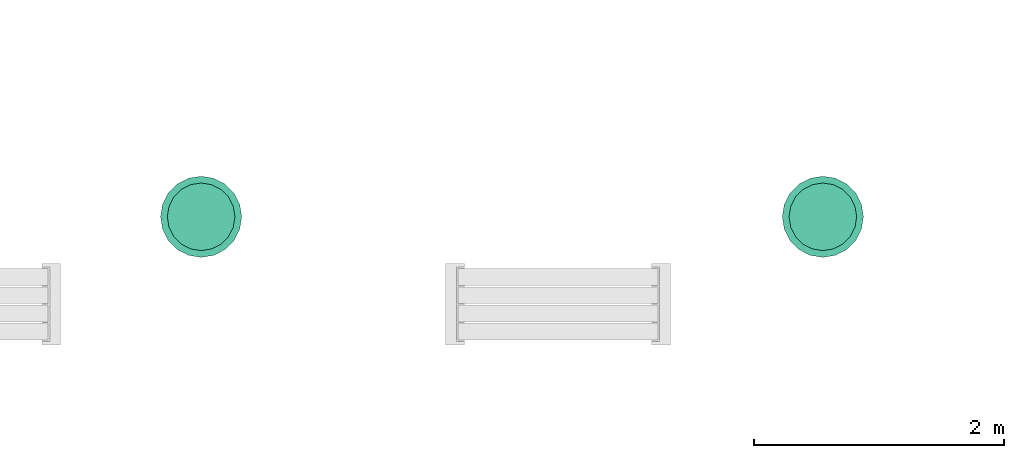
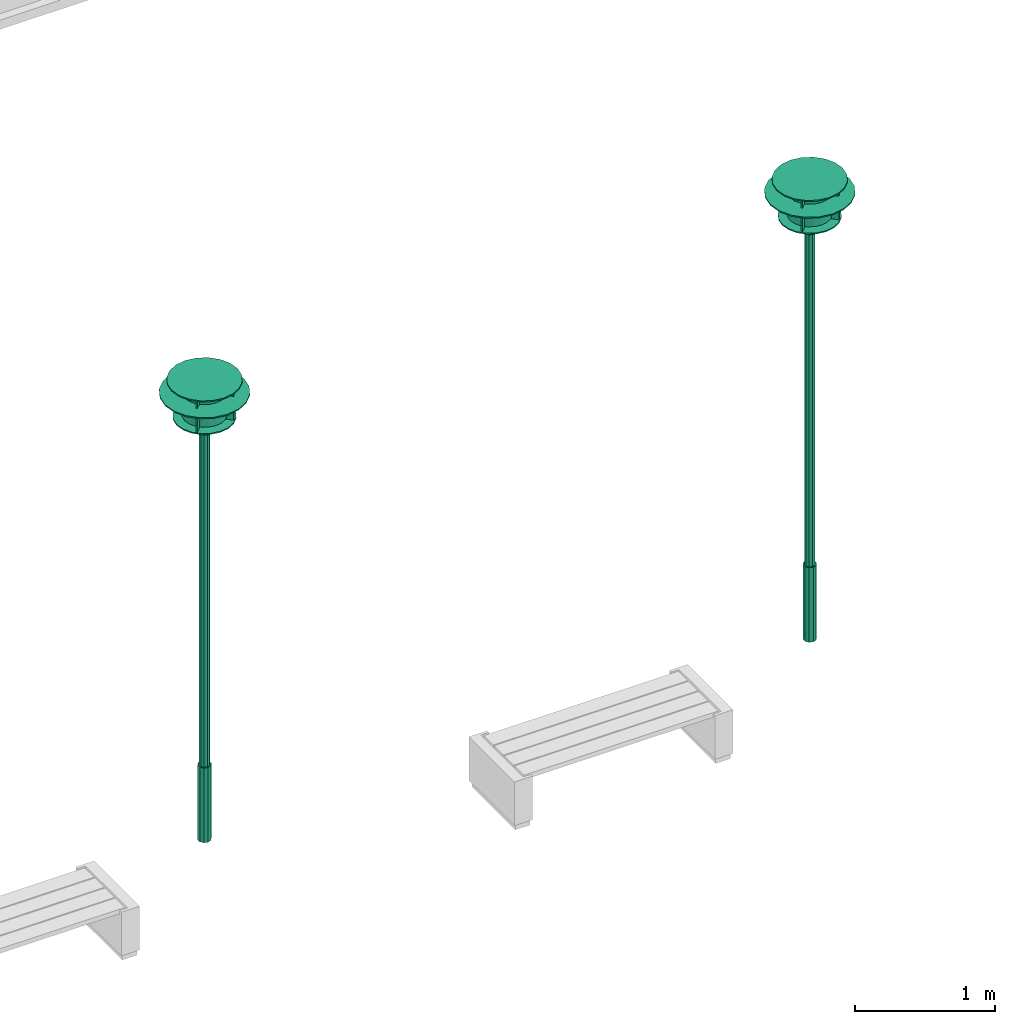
# One storey, part 1 of 8: 2 flow terminals.
"""IFC2X3 building model written with IfcOpenShell, lengths in millimetres."""

from ifc_helpers import new_model, entity, si_unit, converted_unit, derived_unit, direction, frame, frame_2d, origin, origin_2d_with_axis, place, context, subcontext, project, spatial, polyline, rectangle, outline, extrude, source, transform, mapped, material, material_list, type_object, type_shapes, element, save


model = new_model("IFC2X3")

# Units and contexts
model_context = context("Model", 3, precision=0.01, world=origin(), true_north=direction((6.12303176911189e-17, 1.0)))
body_context = subcontext(model_context, "Body", "Model", "MODEL_VIEW")
ifc_project = project(units=[si_unit("LENGTHUNIT", "METRE", prefix="MILLI"), si_unit("AREAUNIT", "SQUARE_METRE"), si_unit("VOLUMEUNIT", "CUBIC_METRE"), converted_unit("PLANEANGLEUNIT", "DEGREE", entity("IfcRatioMeasure", 0.0174532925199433), si_unit("PLANEANGLEUNIT", "RADIAN"), dimensions=[0, 0, 0, 0, 0, 0, 0]), si_unit("MASSUNIT", "GRAM", prefix="KILO"), derived_unit("MASSDENSITYUNIT", [(si_unit("MASSUNIT", "GRAM", prefix="KILO"), 1), (si_unit("LENGTHUNIT", "METRE"), -3)]), si_unit("TIMEUNIT", "SECOND"), si_unit("FREQUENCYUNIT", "HERTZ"), si_unit("THERMODYNAMICTEMPERATUREUNIT", "DEGREE_CELSIUS"), derived_unit("THERMALTRANSMITTANCEUNIT", [(si_unit("MASSUNIT", "GRAM", prefix="KILO"), 1), (si_unit("THERMODYNAMICTEMPERATUREUNIT", "KELVIN"), -1), (si_unit("TIMEUNIT", "SECOND"), -3)]), derived_unit("VOLUMETRICFLOWRATEUNIT", [(si_unit("LENGTHUNIT", "METRE"), 3), (si_unit("TIMEUNIT", "SECOND"), -1)]), si_unit("ELECTRICCURRENTUNIT", "AMPERE"), si_unit("ELECTRICVOLTAGEUNIT", "VOLT"), si_unit("POWERUNIT", "WATT"), si_unit("FORCEUNIT", "NEWTON", prefix="KILO"), si_unit("ILLUMINANCEUNIT", "LUX"), si_unit("LUMINOUSFLUXUNIT", "LUMEN"), si_unit("LUMINOUSINTENSITYUNIT", "CANDELA"), derived_unit("USERDEFINED", [(si_unit("MASSUNIT", "GRAM", prefix="KILO"), -1), (si_unit("LENGTHUNIT", "METRE"), -2), (si_unit("TIMEUNIT", "SECOND"), 3), (si_unit("LUMINOUSFLUXUNIT", "LUMEN"), 1)]), derived_unit("LINEARVELOCITYUNIT", [(si_unit("LENGTHUNIT", "METRE"), 1), (si_unit("TIMEUNIT", "SECOND"), -1)]), si_unit("PRESSUREUNIT", "PASCAL"), derived_unit("USERDEFINED", [(si_unit("LENGTHUNIT", "METRE"), -2), (si_unit("MASSUNIT", "GRAM", prefix="KILO"), 1), (si_unit("TIMEUNIT", "SECOND"), -2)])], contexts=[model_context])

# Site, building, storey
site_placement = place(None, origin())
site = spatial("IfcSite", under=ifc_project, at=site_placement, Name="Default", CompositionType="ELEMENT")
building_placement = place(site_placement, origin())
building = spatial("IfcBuilding", under=site, at=building_placement, CompositionType="ELEMENT")
storey_placement = place(building_placement, origin())
storey = spatial("IfcBuildingStorey", under=building, at=storey_placement, Name="Ground Floor", CompositionType="ELEMENT", Elevation=0.0)

# Flow terminals
ifc_material_1 = material(Name="Metal - Stainless Steel")
ifc_material_2 = material(Name="Glass - Satin")
ifc_material_list_1 = material_list([ifc_material_1, ifc_material_2])
ifc_material_list_2 = material_list([ifc_material_1, ifc_material_2])
light_fixture_type_1 = type_object("IfcLightFixtureType", Name="LI - 001", PredefinedType="NOTDEFINED", material=ifc_material_list_2)
shared_shape_1 = source(origin(), body_context, "Body", "SweptSolid", [
    extrude(outline(polyline([(-50.8412011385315, -320.998710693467), (50.8412011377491, -320.998710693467), (147.54691241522, -289.577120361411), (229.809703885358, -229.809703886), (289.577120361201, -147.546912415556), (320.998710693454, -50.8412011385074), (320.998710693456, 50.8412011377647), (289.577120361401, 147.546912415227), (229.809703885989, 229.809703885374), (147.546912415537, 289.577120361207), (50.8412011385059, 320.998710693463), (-50.8412011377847, 320.99871069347), (-147.546912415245, 289.577120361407), (-229.809703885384, 229.809703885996), (-289.577120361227, 147.546912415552), (-320.998710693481, 50.8412011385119), (-320.998710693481, -50.8412011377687), (-289.577120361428, -147.546912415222), (-229.809703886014, -229.809703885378), (-147.546912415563, -289.577120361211), (-50.8412011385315, -320.998710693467)]), holes=[polyline([(73.7734562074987, -144.788560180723), (25.420600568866, -160.499355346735), (-25.4206005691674, -160.499355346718), (-73.7734562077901, -144.788560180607), (-114.904851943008, -114.904851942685), (-144.788560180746, -73.7734562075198), (-160.499355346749, -25.4206005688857), (-160.499355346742, 25.4206005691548), (-144.788560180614, 73.7734562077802), (-114.904851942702, 114.904851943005), (-73.7734562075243, 144.788560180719), (-25.4206005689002, 160.499355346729), (25.4206005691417, 160.499355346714), (73.773456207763, 144.788560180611), (114.904851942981, 114.904851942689), (144.788560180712, 73.7734562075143), (160.499355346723, 25.4206005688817), (160.499355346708, -25.4206005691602), (144.788560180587, -73.7734562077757), (114.904851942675, -114.904851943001), (73.7734562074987, -144.788560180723)])]), frame((70917.2396784, 57660.3691672, 3881.66666667), z_axis=(0.0, 0.0, 1.0), x_axis=(0.987688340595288, -0.156434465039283, 0.0)), (0.0, 0.0, 1.0), 9.99999999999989),
    extrude(outline(polyline([(-42.3676676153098, -267.498925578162), (42.3676676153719, -267.498925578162), (122.955760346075, -241.314266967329), (191.508086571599, -191.50808657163), (241.314266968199, -122.955760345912), (267.498925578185, -42.3676676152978), (267.498925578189, 42.3676676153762), (241.314266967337, 122.955760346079), (191.508086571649, 191.508086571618), (122.955760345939, 241.314266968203), (42.3676676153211, 267.498925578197), (-42.3676676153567, 267.498925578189), (-122.955760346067, 241.314266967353), (-191.508086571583, 191.508086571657), (-241.314266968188, 122.955760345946), (-267.498925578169, 42.3676676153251), (-267.498925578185, -42.3676676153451), (-241.31426696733, -122.955760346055), (-191.508086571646, -191.508086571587), (-122.955760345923, -241.314266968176), (-42.3676676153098, -267.498925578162)])), frame((70917.2396784, 57660.3691672, 3990.0), z_axis=(0.0, 0.0, 1.0), x_axis=(0.891006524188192, -0.453990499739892, 0.0)), (0.0, 0.0, 1.0), 9.99999999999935),
    extrude(outline(polyline([(-14.0791018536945, -88.8919506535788), (14.0791018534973, -88.8919506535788), (40.8591449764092, -80.1905871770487), (63.6396103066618, -63.6396103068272), (80.190587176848, -40.8591449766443), (88.8919506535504, -14.0791018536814), (88.8919506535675, 14.0791018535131), (80.1905871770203, 40.8591449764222), (63.6396103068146, 63.6396103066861), (40.8591449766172, 80.1905871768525), (14.0791018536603, 88.8919506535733), (-14.0791018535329, 88.8919506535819), (-40.8591449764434, 80.1905871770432), (-63.639610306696, 63.6396103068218), (-80.1905871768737, 40.8591449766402), (-88.8919506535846, 14.079101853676), (-88.8919506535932, -14.0791018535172), (-80.1905871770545, -40.8591449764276), (-63.6396103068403, -63.6396103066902), (-40.8591449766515, -80.1905871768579), (-14.0791018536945, -88.8919506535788)]), holes=[polyline([(18.1596199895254, -35.6402609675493), (6.25737860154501, -39.5075336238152), (-6.25737860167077, -39.507533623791), (-18.1596199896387, -35.6402609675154), (-28.2842712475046, -28.2842712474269), (-35.6402609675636, -18.1596199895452), (-39.5075336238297, -6.25737860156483), (-39.5075336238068, 6.2573786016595), (-35.6402609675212, 18.1596199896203), (-28.284271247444, 28.2842712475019), (-18.1596199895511, 35.6402609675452), (-6.25737860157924, 39.5075336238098), (6.2573786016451, 39.507533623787), (18.1596199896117, 35.6402609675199), (28.2842712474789, 28.2842712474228), (35.6402609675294, 18.1596199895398), (39.5075336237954, 6.25737860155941), (39.5075336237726, -6.25737860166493), (35.6402609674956, -18.1596199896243), (28.284271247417, -28.2842712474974), (18.1596199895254, -35.6402609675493)])]), frame((70917.2396784, 57660.3691672, 3575.0), z_axis=(0.0, 0.0, 1.0), x_axis=(0.987688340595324, -0.156434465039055, 0.0)), (0.0, 0.0, 1.0), 9.99999999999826),
    extrude(outline(polyline([(-14.0791018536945, -88.8919506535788), (14.0791018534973, -88.8919506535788), (40.8591449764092, -80.1905871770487), (63.6396103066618, -63.6396103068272), (80.190587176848, -40.8591449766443), (88.8919506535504, -14.0791018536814), (88.8919506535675, 14.0791018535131), (80.1905871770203, 40.8591449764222), (63.6396103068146, 63.6396103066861), (40.8591449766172, 80.1905871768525), (14.0791018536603, 88.8919506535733), (-14.0791018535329, 88.8919506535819), (-40.8591449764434, 80.1905871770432), (-63.639610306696, 63.6396103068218), (-80.1905871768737, 40.8591449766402), (-88.8919506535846, 14.079101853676), (-88.8919506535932, -14.0791018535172), (-80.1905871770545, -40.8591449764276), (-63.6396103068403, -63.6396103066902), (-40.8591449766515, -80.1905871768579), (-14.0791018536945, -88.8919506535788)]), holes=[polyline([(18.1596199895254, -35.6402609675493), (6.25737860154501, -39.5075336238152), (-6.25737860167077, -39.507533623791), (-18.1596199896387, -35.6402609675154), (-28.2842712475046, -28.2842712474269), (-35.6402609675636, -18.1596199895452), (-39.5075336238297, -6.25737860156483), (-39.5075336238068, 6.2573786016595), (-35.6402609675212, 18.1596199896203), (-28.284271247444, 28.2842712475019), (-18.1596199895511, 35.6402609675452), (-6.25737860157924, 39.5075336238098), (6.2573786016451, 39.507533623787), (18.1596199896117, 35.6402609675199), (28.2842712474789, 28.2842712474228), (35.6402609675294, 18.1596199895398), (39.5075336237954, 6.25737860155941), (39.5075336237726, -6.25737860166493), (35.6402609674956, -18.1596199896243), (28.284271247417, -28.2842712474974), (18.1596199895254, -35.6402609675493)])]), frame((70917.2396784, 57660.3691672, 3625.0), z_axis=(0.0, 0.0, 1.0), x_axis=(0.987688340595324, -0.156434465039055, 0.0)), (0.0, 0.0, 1.0), 9.99999999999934),
    extrude(outline(polyline([(-35.5888407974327, -224.699097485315), (35.5888407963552, -224.699097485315), (103.282838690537, -202.703984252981), (160.866792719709, -160.866792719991), (202.703984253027, -103.282838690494), (224.699097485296, -35.5888407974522), (224.699097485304, 35.5888407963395), (202.703984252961, 103.282838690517), (160.866792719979, 160.866792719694), (103.282838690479, 202.703984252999), (35.5888407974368, 224.699097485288), (-35.5888407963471, 224.699097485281), (-103.282838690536, 202.703984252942), (-160.866792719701, 160.866792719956), (-202.703984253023, 103.282838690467), (-224.699097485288, 35.5888407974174), (-224.6990974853, -35.5888407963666), (-202.703984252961, -103.282838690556), (-160.866792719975, -160.866792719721), (-103.282838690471, -202.703984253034), (-35.5888407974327, -224.699097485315)])), frame((70917.2396784, 57660.3691672, 3675.0), z_axis=(0.0, 0.0, 1.0), x_axis=(0.891006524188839, -0.453990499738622, 0.0)), (0.0, 0.0, 1.0), 10.0000000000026),
    extrude(outline(polyline([(-25.4206005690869, -160.499355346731), (25.4206005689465, -160.499355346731), (73.7734562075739, -144.788560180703), (114.90485194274, -114.904851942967), (144.788560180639, -73.7734562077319), (160.499355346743, -25.4206005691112), (160.499355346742, 25.4206005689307), (144.788560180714, 73.7734562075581), (114.90485194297, 114.904851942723), (73.7734562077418, 144.788560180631), (25.4206005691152, 160.499355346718), (-25.4206005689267, 160.499355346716), (-73.7734562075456, 144.78856018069), (-114.904851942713, 114.904851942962), (-144.788560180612, 73.7734562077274), (-160.499355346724, 25.4206005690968), (-160.499355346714, -25.4206005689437), (-144.788560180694, -73.7734562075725), (-114.904851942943, -114.904851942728), (-73.7734562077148, -144.788560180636), (-25.4206005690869, -160.499355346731)])), frame((70917.2396784, 57660.3691672, 3695.0), z_axis=(0.0, 0.0, 1.0), x_axis=(0.987688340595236, -0.156434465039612, 0.0)), (0.0, 0.0, 1.0), 284.999999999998),
    extrude(rectangle(XDim=10.000000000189, YDim=54.1666666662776, at=origin_2d_with_axis()), frame((70783.1840178, 57526.3135066, 3891.66666667), z_axis=(0.0, 0.0, 1.0), x_axis=(-0.707106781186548, 0.707106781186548, 0.0)), (0.0, 0.0, 1.0), 98.3333333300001),
    extrude(rectangle(XDim=10.0000000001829, YDim=54.1666666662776, at=frame_2d((3.06243919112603e-12, -3.06421554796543e-12), x_axis=(1.0, 0.0))), frame((70783.1840178, 57794.4248278, 3891.66666667), z_axis=(0.0, 0.0, 1.0), x_axis=(0.707106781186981, 0.707106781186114, 0.0)), (0.0, 0.0, 1.0), 98.3333333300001),
    extrude(rectangle(XDim=10.0000000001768, YDim=54.1666666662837, at=frame_2d((6.12487838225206e-12, -6.12487838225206e-12), x_axis=(1.0, 0.0))), frame((71051.295339, 57794.4248278, 3891.66666667), z_axis=(0.0, 0.0, 1.0), x_axis=(0.707106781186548, -0.707106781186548, 0.0)), (0.0, 0.0, 1.0), 98.3333333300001),
    extrude(rectangle(XDim=10.0000000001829, YDim=54.1666666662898, at=frame_2d((6.12576656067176e-12, -6.12487838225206e-12), x_axis=(1.0, 0.0))), frame((71051.295339, 57526.3135066, 3891.66666667), z_axis=(0.0, 0.0, 1.0), x_axis=(-0.707106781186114, -0.707106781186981, 0.0)), (0.0, 0.0, 1.0), 98.3333333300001),
    extrude(rectangle(XDim=10.000000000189, YDim=54.1666666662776, at=origin_2d_with_axis()), frame((70783.1840178, 57526.3135066, 3685.0), z_axis=(0.0, 0.0, 1.0), x_axis=(-0.707106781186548, 0.707106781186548, 0.0)), (0.0, 0.0, 1.0), 196.66666667),
    extrude(rectangle(XDim=10.0000000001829, YDim=54.1666666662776, at=frame_2d((3.06243919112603e-12, -3.06421554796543e-12), x_axis=(1.0, 0.0))), frame((70783.1840178, 57794.4248278, 3685.0), z_axis=(0.0, 0.0, 1.0), x_axis=(0.707106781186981, 0.707106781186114, 0.0)), (0.0, 0.0, 1.0), 196.66666667),
    extrude(rectangle(XDim=10.0000000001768, YDim=54.1666666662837, at=frame_2d((6.12487838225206e-12, -6.12487838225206e-12), x_axis=(1.0, 0.0))), frame((71051.295339, 57794.4248278, 3685.0), z_axis=(0.0, 0.0, 1.0), x_axis=(0.707106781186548, -0.707106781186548, 0.0)), (0.0, 0.0, 1.0), 196.66666667),
    extrude(rectangle(XDim=10.0000000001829, YDim=54.1666666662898, at=frame_2d((6.12576656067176e-12, -6.12487838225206e-12), x_axis=(1.0, 0.0))), frame((71051.295339, 57526.3135066, 3685.0), z_axis=(0.0, 0.0, 1.0), x_axis=(-0.707106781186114, -0.707106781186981, 0.0)), (0.0, 0.0, 1.0), 196.66666667),
    extrude(outline(polyline([(-12.36067977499, -38.0422606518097), (12.3606797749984, -38.0422606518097), (32.3606797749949, -23.5114100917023), (40.0, 0.0), (32.3606797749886, 23.5114100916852), (12.3606797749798, 38.0422606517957), (-12.3606797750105, 38.0422606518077), (-32.3606797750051, 23.5114100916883), (-40.0, 0.0), (-32.3606797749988, -23.5114100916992), (-12.36067977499, -38.0422606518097)])), frame((70917.2396784, 57660.3691672, 3350.0), z_axis=(0.0, 0.0, 1.0), x_axis=(0.587785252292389, -0.809016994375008, 0.0)), (0.0, 0.0, 1.0), 325.0),
    extrude(outline(polyline([(-12.36067977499, -38.0422606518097), (12.3606797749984, -38.0422606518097), (32.3606797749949, -23.5114100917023), (40.0, 0.0), (32.3606797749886, 23.5114100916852), (12.3606797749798, 38.0422606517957), (-12.3606797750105, 38.0422606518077), (-32.3606797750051, 23.5114100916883), (-40.0, 0.0), (-32.3606797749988, -23.5114100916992), (-12.36067977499, -38.0422606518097)])), frame((70917.2396784, 57660.3691672, 650.0), z_axis=(0.0, 0.0, 1.0), x_axis=(0.587785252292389, -0.809016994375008, 0.0)), (0.0, 0.0, 1.0), 2700.0),
    extrude(outline(polyline([(-15.450849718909, -47.5528258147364), (15.4508497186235, -47.5528258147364), (40.4508497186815, -29.3892626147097), (50.0, 0.0), (40.4508497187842, 29.3892626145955), (15.4508497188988, 47.5528258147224), (-15.4508497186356, 47.5528258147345), (-40.4508497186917, 29.3892626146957), (-50.0, 0.0), (-40.4508497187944, -29.3892626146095), (-15.450849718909, -47.5528258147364)])), frame((70917.2396784, 57660.3691672, 0.0), z_axis=(0.0, 0.0, 1.0), x_axis=(0.587785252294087, -0.809016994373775, 0.0)), (0.0, 0.0, 1.0), 650.0),
])
type_shapes(light_fixture_type_1, [shared_shape_1])
flow_terminal_1_placement = place(storey_placement, origin())
element("IfcFlowTerminal", 1, at=flow_terminal_1_placement, inside=storey, type_object=light_fixture_type_1, material=ifc_material_list_1, Name="LI - 001 1725304:LI - 001 1725304", ObjectType="LI - 001 1725304:LI - 001 1725304", context=body_context, shape_type="MappedRepresentation", body=[
    mapped(shared_shape_1, transform((0.0, 0.0, 0.0), scale=1.0)),
])
ifc_material_list_3 = material_list([ifc_material_1, ifc_material_2])
ifc_material_list_4 = material_list([ifc_material_1, ifc_material_2])
light_fixture_type_2 = type_object("IfcLightFixtureType", Name="LI - 001", PredefinedType="NOTDEFINED", material=ifc_material_list_4)
shared_shape_2 = source(origin(), body_context, "Body", "SweptSolid", [
    extrude(outline(polyline([(-50.8412011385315, -320.998710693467), (50.8412011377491, -320.998710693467), (147.54691241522, -289.577120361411), (229.809703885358, -229.809703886), (289.577120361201, -147.546912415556), (320.998710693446, -50.8412011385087), (320.998710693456, 50.8412011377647), (289.577120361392, 147.546912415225), (229.809703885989, 229.809703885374), (147.546912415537, 289.577120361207), (50.8412011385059, 320.998710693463), (-50.8412011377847, 320.99871069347), (-147.546912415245, 289.577120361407), (-229.809703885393, 229.809703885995), (-289.577120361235, 147.546912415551), (-320.998710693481, 50.8412011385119), (-320.998710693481, -50.8412011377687), (-289.577120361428, -147.546912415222), (-229.809703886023, -229.809703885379), (-147.546912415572, -289.577120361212), (-50.8412011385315, -320.998710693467)]), holes=[polyline([(73.7734562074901, -144.788560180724), (25.420600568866, -160.499355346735), (-25.4206005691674, -160.499355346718), (-73.7734562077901, -144.788560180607), (-114.904851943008, -114.904851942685), (-144.788560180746, -73.7734562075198), (-160.499355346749, -25.4206005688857), (-160.499355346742, 25.4206005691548), (-144.788560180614, 73.7734562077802), (-114.904851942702, 114.904851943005), (-73.7734562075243, 144.788560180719), (-25.4206005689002, 160.499355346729), (25.4206005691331, 160.499355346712), (73.773456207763, 144.788560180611), (114.904851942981, 114.904851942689), (144.788560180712, 73.7734562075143), (160.499355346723, 25.4206005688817), (160.499355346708, -25.4206005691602), (144.788560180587, -73.7734562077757), (114.904851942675, -114.904851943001), (73.7734562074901, -144.788560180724)])]), frame((65935.0826547, 57660.3691672, 3881.66666667), z_axis=(0.0, 0.0, 1.0), x_axis=(0.987688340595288, -0.156434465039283, 0.0)), (0.0, 0.0, 1.0), 9.99999999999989),
    extrude(outline(polyline([(-42.3676676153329, -267.498925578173), (42.3676676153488, -267.498925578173), (122.955760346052, -241.314266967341), (191.508086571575, -191.508086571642), (241.314266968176, -122.955760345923), (267.498925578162, -42.3676676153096), (267.498925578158, 42.3676676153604), (241.314266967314, 122.955760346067), (191.508086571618, 191.508086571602), (122.955760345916, 241.314266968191), (42.367667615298, 267.498925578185), (-42.3676676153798, 267.498925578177), (-122.95576034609, 241.314266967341), (-191.508086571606, 191.508086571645), (-241.314266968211, 122.955760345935), (-267.498925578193, 42.3676676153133), (-267.498925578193, -42.3676676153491), (-241.314266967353, -122.955760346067), (-191.508086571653, -191.508086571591), (-122.955760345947, -241.314266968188), (-42.3676676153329, -267.498925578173)])), frame((65935.0826547, 57660.3691672, 3990.0), z_axis=(0.0, 0.0, 1.0), x_axis=(0.891006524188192, -0.453990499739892, 0.0)), (0.0, 0.0, 1.0), 9.99999999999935),
    extrude(outline(polyline([(-14.079101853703, -88.8919506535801), (14.0791018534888, -88.8919506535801), (40.8591449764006, -80.19058717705), (63.6396103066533, -63.6396103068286), (80.1905871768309, -40.859144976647), (88.8919506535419, -14.0791018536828), (88.891950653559, 14.0791018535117), (80.1905871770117, 40.8591449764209), (63.6396103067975, 63.6396103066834), (40.8591449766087, 80.1905871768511), (14.0791018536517, 88.891950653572), (-14.0791018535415, 88.8919506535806), (-40.8591449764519, 80.1905871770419), (-63.6396103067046, 63.6396103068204), (-80.1905871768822, 40.8591449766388), (-88.8919506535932, 14.0791018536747), (-88.8919506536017, -14.0791018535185), (-80.190587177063, -40.859144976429), (-63.6396103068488, -63.6396103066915), (-40.85914497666, -80.1905871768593), (-14.079101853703, -88.8919506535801)]), holes=[polyline([(18.1596199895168, -35.6402609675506), (6.25737860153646, -39.5075336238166), (-6.25737860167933, -39.5075336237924), (-18.1596199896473, -35.6402609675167), (-28.2842712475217, -28.2842712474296), (-35.6402609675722, -18.1596199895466), (-39.5075336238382, -6.25737860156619), (-39.5075336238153, 6.25737860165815), (-35.6402609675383, 18.1596199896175), (-28.2842712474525, 28.2842712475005), (-18.1596199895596, 35.6402609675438), (-6.25737860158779, 39.5075336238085), (6.25737860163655, 39.5075336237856), (18.1596199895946, 35.6402609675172), (28.2842712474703, 28.2842712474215), (35.6402609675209, 18.1596199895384), (39.5075336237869, 6.25737860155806), (39.507533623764, -6.25737860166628), (35.640260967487, -18.1596199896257), (28.2842712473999, -28.2842712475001), (18.1596199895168, -35.6402609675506)])]), frame((65935.0826547, 57660.3691672, 3575.0), z_axis=(0.0, 0.0, 1.0), x_axis=(0.987688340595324, -0.156434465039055, 0.0)), (0.0, 0.0, 1.0), 9.99999999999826),
    extrude(outline(polyline([(-14.079101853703, -88.8919506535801), (14.0791018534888, -88.8919506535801), (40.8591449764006, -80.19058717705), (63.6396103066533, -63.6396103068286), (80.1905871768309, -40.859144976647), (88.8919506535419, -14.0791018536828), (88.891950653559, 14.0791018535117), (80.1905871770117, 40.8591449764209), (63.6396103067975, 63.6396103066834), (40.8591449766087, 80.1905871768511), (14.0791018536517, 88.891950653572), (-14.0791018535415, 88.8919506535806), (-40.8591449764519, 80.1905871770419), (-63.6396103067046, 63.6396103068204), (-80.1905871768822, 40.8591449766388), (-88.8919506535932, 14.0791018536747), (-88.8919506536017, -14.0791018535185), (-80.190587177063, -40.859144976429), (-63.6396103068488, -63.6396103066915), (-40.85914497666, -80.1905871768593), (-14.079101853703, -88.8919506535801)]), holes=[polyline([(18.1596199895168, -35.6402609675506), (6.25737860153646, -39.5075336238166), (-6.25737860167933, -39.5075336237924), (-18.1596199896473, -35.6402609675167), (-28.2842712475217, -28.2842712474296), (-35.6402609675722, -18.1596199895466), (-39.5075336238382, -6.25737860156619), (-39.5075336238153, 6.25737860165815), (-35.6402609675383, 18.1596199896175), (-28.2842712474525, 28.2842712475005), (-18.1596199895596, 35.6402609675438), (-6.25737860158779, 39.5075336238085), (6.25737860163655, 39.5075336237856), (18.1596199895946, 35.6402609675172), (28.2842712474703, 28.2842712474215), (35.6402609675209, 18.1596199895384), (39.5075336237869, 6.25737860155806), (39.507533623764, -6.25737860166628), (35.640260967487, -18.1596199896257), (28.2842712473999, -28.2842712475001), (18.1596199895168, -35.6402609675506)])]), frame((65935.0826547, 57660.3691672, 3625.0), z_axis=(0.0, 0.0, 1.0), x_axis=(0.987688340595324, -0.156434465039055, 0.0)), (0.0, 0.0, 1.0), 9.99999999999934),
    extrude(outline(polyline([(-35.5888407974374, -224.699097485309), (35.5888407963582, -224.69909748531), (103.282838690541, -202.703984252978), (160.866792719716, -160.866792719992), (202.703984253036, -103.282838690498), (224.69909748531, -35.5888407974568), (224.699097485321, 35.588840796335), (202.703984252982, 103.282838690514), (160.866792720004, 160.866792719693), (103.282838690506, 202.703984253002), (35.5888407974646, 224.699097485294), (-35.5888407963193, 224.69909748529), (-103.28283869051, 202.703984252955), (-160.866792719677, 160.866792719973), (-202.703984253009, 103.282838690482), (-224.699097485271, 35.5888407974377), (-224.699097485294, -35.5888407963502), (-202.703984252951, -103.282838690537), (-160.866792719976, -160.866792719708), (-103.282838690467, -202.703984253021), (-35.5888407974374, -224.699097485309)])), frame((65935.0826547, 57660.3691672, 3675.0), z_axis=(0.0, 0.0, 1.0), x_axis=(0.891006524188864, -0.453990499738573, 0.0)), (0.0, 0.0, 1.0), 10.0000000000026),
    extrude(outline(polyline([(-25.4206005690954, -160.499355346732), (25.4206005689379, -160.499355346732), (73.7734562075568, -144.788560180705), (114.904851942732, -114.904851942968), (144.78856018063, -73.7734562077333), (160.499355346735, -25.4206005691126), (160.499355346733, 25.4206005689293), (144.788560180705, 73.7734562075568), (114.904851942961, 114.904851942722), (73.7734562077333, 144.78856018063), (25.4206005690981, 160.499355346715), (-25.4206005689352, 160.499355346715), (-73.7734562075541, 144.788560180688), (-114.904851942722, 114.904851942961), (-144.78856018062, 73.7734562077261), (-160.499355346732, 25.4206005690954), (-160.499355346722, -25.4206005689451), (-144.788560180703, -73.7734562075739), (-114.904851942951, -114.904851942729), (-73.7734562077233, -144.788560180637), (-25.4206005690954, -160.499355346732)])), frame((65935.0826547, 57660.3691672, 3695.0), z_axis=(0.0, 0.0, 1.0), x_axis=(0.987688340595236, -0.156434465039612, 0.0)), (0.0, 0.0, 1.0), 284.999999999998),
    extrude(rectangle(XDim=10.000000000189, YDim=54.1666666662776, at=origin_2d_with_axis()), frame((65801.0269941, 57526.3135066, 3891.66666667), z_axis=(0.0, 0.0, 1.0), x_axis=(-0.707106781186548, 0.707106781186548, 0.0)), (0.0, 0.0, 1.0), 98.3333333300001),
    extrude(rectangle(XDim=10.0000000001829, YDim=54.1666666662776, at=frame_2d((3.06243919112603e-12, -3.06421554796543e-12), x_axis=(1.0, 0.0))), frame((65801.0269941, 57794.4248278, 3891.66666667), z_axis=(0.0, 0.0, 1.0), x_axis=(0.707106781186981, 0.707106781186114, 0.0)), (0.0, 0.0, 1.0), 98.3333333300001),
    extrude(rectangle(XDim=10.0000000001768, YDim=54.1666666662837, at=frame_2d((1.22510890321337e-11, 1.77635683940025e-15), x_axis=(1.0, 0.0))), frame((66069.1383153, 57794.4248278, 3891.66666667), z_axis=(0.0, 0.0, 1.0), x_axis=(0.707106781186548, -0.707106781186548, 0.0)), (0.0, 0.0, 1.0), 98.3333333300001),
    extrude(rectangle(XDim=10.0000000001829, YDim=54.1666666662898, at=frame_2d((6.12576656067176e-12, -6.12487838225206e-12), x_axis=(1.0, 0.0))), frame((66069.1383153, 57526.3135066, 3891.66666667), z_axis=(0.0, 0.0, 1.0), x_axis=(-0.707106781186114, -0.707106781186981, 0.0)), (0.0, 0.0, 1.0), 98.3333333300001),
    extrude(rectangle(XDim=10.000000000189, YDim=54.1666666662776, at=origin_2d_with_axis()), frame((65801.0269941, 57526.3135066, 3685.0), z_axis=(0.0, 0.0, 1.0), x_axis=(-0.707106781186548, 0.707106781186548, 0.0)), (0.0, 0.0, 1.0), 196.66666667),
    extrude(rectangle(XDim=10.0000000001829, YDim=54.1666666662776, at=frame_2d((3.06243919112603e-12, -3.06421554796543e-12), x_axis=(1.0, 0.0))), frame((65801.0269941, 57794.4248278, 3685.0), z_axis=(0.0, 0.0, 1.0), x_axis=(0.707106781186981, 0.707106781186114, 0.0)), (0.0, 0.0, 1.0), 196.66666667),
    extrude(rectangle(XDim=10.0000000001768, YDim=54.1666666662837, at=frame_2d((1.22510890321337e-11, 1.77635683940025e-15), x_axis=(1.0, 0.0))), frame((66069.1383153, 57794.4248278, 3685.0), z_axis=(0.0, 0.0, 1.0), x_axis=(0.707106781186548, -0.707106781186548, 0.0)), (0.0, 0.0, 1.0), 196.66666667),
    extrude(rectangle(XDim=10.0000000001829, YDim=54.1666666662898, at=frame_2d((6.12576656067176e-12, -6.12487838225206e-12), x_axis=(1.0, 0.0))), frame((66069.1383153, 57526.3135066, 3685.0), z_axis=(0.0, 0.0, 1.0), x_axis=(-0.707106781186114, -0.707106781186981, 0.0)), (0.0, 0.0, 1.0), 196.66666667),
    extrude(outline(polyline([(-12.3606797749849, -38.0422606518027), (12.3606797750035, -38.0422606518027), (32.360679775, -23.5114100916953), (40.0, 0.0), (32.3606797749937, 23.5114100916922), (12.3606797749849, 38.0422606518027), (-12.3606797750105, 38.0422606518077), (-32.360679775, 23.5114100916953), (-40.0, 0.0), (-32.3606797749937, -23.5114100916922), (-12.3606797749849, -38.0422606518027)])), frame((65935.0826547, 57660.3691672, 3350.0), z_axis=(0.0, 0.0, 1.0), x_axis=(0.587785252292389, -0.809016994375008, 0.0)), (0.0, 0.0, 1.0), 325.0),
    extrude(outline(polyline([(-12.3606797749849, -38.0422606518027), (12.3606797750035, -38.0422606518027), (32.360679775, -23.5114100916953), (40.0, 0.0), (32.3606797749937, 23.5114100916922), (12.3606797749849, 38.0422606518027), (-12.3606797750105, 38.0422606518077), (-32.360679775, 23.5114100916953), (-40.0, 0.0), (-32.3606797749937, -23.5114100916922), (-12.3606797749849, -38.0422606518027)])), frame((65935.0826547, 57660.3691672, 650.0), z_axis=(0.0, 0.0, 1.0), x_axis=(0.587785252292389, -0.809016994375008, 0.0)), (0.0, 0.0, 1.0), 2700.0),
    extrude(outline(polyline([(-15.4508497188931, -47.5528258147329), (15.4508497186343, -47.5528258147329), (40.4508497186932, -29.3892626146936), (50.0, 0.0), (40.4508497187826, 29.3892626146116), (15.4508497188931, 47.5528258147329), (-15.4508497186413, 47.552825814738), (-40.4508497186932, 29.3892626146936), (-50.0, 0.0), (-40.4508497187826, -29.3892626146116), (-15.4508497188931, -47.5528258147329)])), frame((65935.0826547, 57660.3691672, 0.0), z_axis=(0.0, 0.0, 1.0), x_axis=(0.587785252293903, -0.809016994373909, 0.0)), (0.0, 0.0, 1.0), 650.0),
])
type_shapes(light_fixture_type_2, [shared_shape_2])
flow_terminal_2_placement = place(storey_placement, origin())
element("IfcFlowTerminal", 2, at=flow_terminal_2_placement, inside=storey, type_object=light_fixture_type_2, material=ifc_material_list_3, Name="LI - 001 1768426:LI - 001 1768426", ObjectType="LI - 001 1768426:LI - 001 1768426", context=body_context, shape_type="MappedRepresentation", body=[
    mapped(shared_shape_2, transform((0.0, 0.0, 0.0), scale=1.0)),
])

save(model, "model.ifc")
